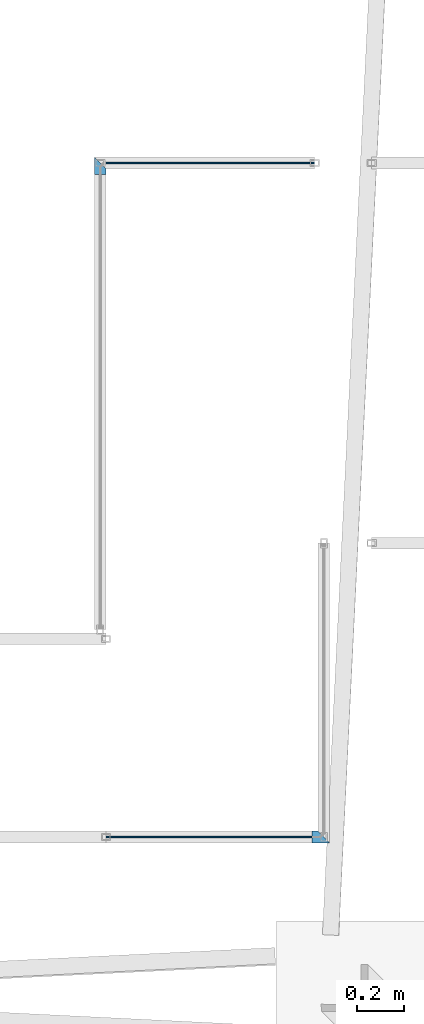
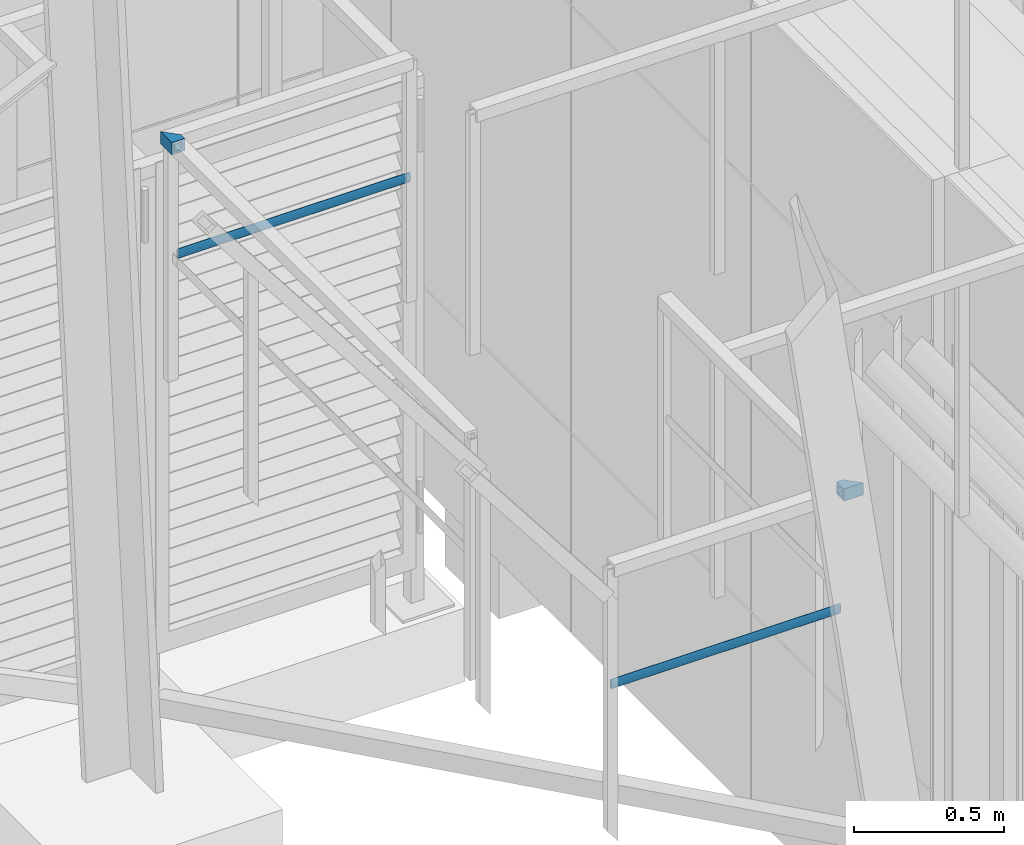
# One storey, part 81 of 418: 4 members, 2 elements without a shape of their own.
"""IFC2X3 building model written with IfcOpenShell, lengths in millimetres."""

import ifcopenshell
import ifcopenshell.guid

model = None  # the IFC model being written
_history = None  # IfcOwnerHistory: only IFC2X3 demands one
_inside = {}  # id of a spatial element -> (the spatial element, [elements in it])
_under = {}  # id of a project, library or spatial element -> (it, [spatial elements below it])
_declared = {}  # id of a project -> (the project, [libraries it declares])
_typed = {}  # id of a type object -> (the type object, [elements of that type])
_made_of = {}  # id of a material, layer set ... -> (it, [elements and type objects made of it])


def new_model(schema):
    """Start an empty IFC model of exactly this schema.

    Asked for "IFC4X3", IfcOpenShell would pick the latest addendum, in which some entities
    have other attributes; the version numbers below select the first issue.
    IFC2X3 requires an IfcOwnerHistory on every rooted entity: one is made here for all.
    """
    global model, _history
    if schema == "IFC4X3":
        model = ifcopenshell.file(schema_version=(4, 3, 0, 0))
    else:
        model = ifcopenshell.file(schema=schema)
    _inside.clear()
    _under.clear()
    _declared.clear()
    _typed.clear()
    _made_of.clear()
    _history = None
    if model.schema == "IFC2X3":
        org = make("IfcOrganization", Name="unknown")
        user = make(
            "IfcPersonAndOrganization",
            ThePerson=make("IfcPerson", FamilyName="unknown"),
            TheOrganization=org,
        )
        app = make(
            "IfcApplication",
            ApplicationDeveloper=org,
            Version="unknown",
            ApplicationFullName="unknown",
            ApplicationIdentifier="unknown",
        )
        _history = make(
            "IfcOwnerHistory",
            OwningUser=user,
            OwningApplication=app,
            ChangeAction="ADDED",
            CreationDate=0,
        )
    return model


def make(cls, **values):
    """One entity of the class cls with the attributes given. An attribute that is None is left unset."""
    return model.create_entity(
        cls, **{name: value for name, value in values.items() if value is not None}
    )


def entity(cls, *values):
    """Any entity or typed value of the class cls, its attributes in the order of the schema. None: left unset."""
    e = model.create_entity(cls)
    for i, value in enumerate(values):
        if value is not None:
            e[i] = value
    return e


def rooted(cls, **values):
    """An entity with a GlobalId (a new one), such as an element, a storey or a relation."""
    return make(cls, GlobalId=ifcopenshell.guid.new(), OwnerHistory=_history, **values)


def si_unit(unit_type, name, prefix=None):
    """IfcSIUnit, for example si_unit("LENGTHUNIT", "METRE", prefix="MILLI")."""
    return make("IfcSIUnit", UnitType=unit_type, Prefix=prefix, Name=name)


def converted_unit(unit_type, name, factor, base, dimensions=None, offset=None):
    """IfcConversionBasedUnit, such as the inch: factor (a typed value) times the base unit."""
    return make(
        "IfcConversionBasedUnit"
        if offset is None
        else "IfcConversionBasedUnitWithOffset",
        ConversionOffset=offset,
        Dimensions=None
        if dimensions is None
        else entity("IfcDimensionalExponents", *dimensions),
        UnitType=unit_type,
        Name=name,
        ConversionFactor=make(
            "IfcMeasureWithUnit", ValueComponent=factor, UnitComponent=base
        ),
    )


def derived_unit(unit_type, elements):
    """IfcDerivedUnit: a product of units, each with its exponent."""
    return make(
        "IfcDerivedUnit",
        Elements=[
            make("IfcDerivedUnitElement", Unit=unit, Exponent=power)
            for unit, power in elements
        ],
        UnitType=unit_type,
    )


def money_unit(currency):
    """IfcMonetaryUnit."""
    return make("IfcMonetaryUnit", Currency=currency)


def assignment(units):
    """IfcUnitAssignment: the units of a project."""
    return None if units is None else make("IfcUnitAssignment", Units=units)


def point(xyz):
    """IfcCartesianPoint."""
    return None if xyz is None else make("IfcCartesianPoint", Coordinates=xyz)


def direction(xyz):
    """IfcDirection."""
    return None if xyz is None else make("IfcDirection", DirectionRatios=xyz)


def frame(location, z_axis=None, x_axis=None):
    """IfcAxis2Placement3D, a coordinate frame: its origin and axes. An axis left out is left unset."""
    return make(
        "IfcAxis2Placement3D",
        Location=point(location),
        Axis=direction(z_axis),
        RefDirection=direction(x_axis),
    )


def origin_with_axes():
    """The frame at (0, 0, 0) with the z axis (0, 0, 1) and the x axis (1, 0, 0) written out."""
    return frame((0.0, 0.0, 0.0), z_axis=(0.0, 0.0, 1.0), x_axis=(1.0, 0.0, 0.0))


def place(relative_to, where):
    """IfcLocalPlacement: puts the frame where relative to a parent placement (None: the world)."""
    return make(
        "IfcLocalPlacement", PlacementRelTo=relative_to, RelativePlacement=where
    )


def context(
    kind, dimensions, precision=None, world=None, true_north=None, identifier=None
):
    """IfcGeometricRepresentationContext, for example the 3D "Model" context."""
    return make(
        "IfcGeometricRepresentationContext",
        ContextIdentifier=identifier,
        ContextType=kind,
        CoordinateSpaceDimension=dimensions,
        Precision=precision,
        WorldCoordinateSystem=world,
        TrueNorth=true_north,
    )


def subcontext(parent, identifier, kind, view, scale=None):
    """IfcGeometricRepresentationSubContext, for example "Body" below "Model"."""
    return make(
        "IfcGeometricRepresentationSubContext",
        ContextIdentifier=identifier,
        ContextType=kind,
        ParentContext=parent,
        TargetScale=scale,
        TargetView=view,
    )


def project(units=None, contexts=None):
    """IfcProject with its units and contexts."""
    return rooted(
        "IfcProject",
        Name="project",
        RepresentationContexts=contexts,
        UnitsInContext=assignment(units),
    )


def spatial(cls, under=None, at=None, **own):
    """A site, building, storey or space (cls), placed at a placement, below another one or the project."""
    s = rooted(cls, ObjectPlacement=at, **own)
    if under is not None:
        _under.setdefault(under.id(), (under, []))[1].append(s)
    return s


def faces_of(points, faces, orient=None, outer=None):
    """IfcFace entities. A face is a list of loops; a loop is a list of indices into points, from 0.

    orient and outer hold one flag for each loop. By default every Orientation is true, the
    first loop of a face is its IfcFaceOuterBound and the others are IfcFaceBound.
    """
    made = []
    for i, loops in enumerate(faces):
        bounds = []
        for j, loop in enumerate(loops):
            is_outer = j == 0 if outer is None else outer[i][j]
            bounds.append(
                make(
                    "IfcFaceOuterBound" if is_outer else "IfcFaceBound",
                    Bound=make("IfcPolyLoop", Polygon=[points[k] for k in loop]),
                    Orientation=True if orient is None else orient[i][j],
                )
            )
        made.append(make("IfcFace", Bounds=bounds))
    return made


def faceted_brep(points, faces, orient=None, outer=None, voids=None):
    """IfcFacetedBrep: a solid bounded by flat faces; with voids (closed shells), ...WithVoids."""
    shared = [point(p) for p in points]
    hull = make("IfcClosedShell", CfsFaces=faces_of(shared, faces, orient, outer))
    if voids is None:
        return make("IfcFacetedBrep", Outer=hull)
    return make(
        "IfcFacetedBrepWithVoids",
        Outer=hull,
        Voids=[
            make(cls, CfsFaces=faces_of(shared, fs, o, b)) for cls, fs, o, b in voids
        ],
    )


def shape(context_of_items, identifier, shape_type, items):
    """IfcShapeRepresentation: the items that make up one representation, for example the "Body"."""
    return make(
        "IfcShapeRepresentation",
        ContextOfItems=context_of_items,
        RepresentationIdentifier=identifier,
        RepresentationType=shape_type,
        Items=items,
    )


def material(Name=None, Category=None):
    """IfcMaterial."""
    return make("IfcMaterial", Name=Name, Category=Category)


def made_of(thing, what):
    """Note that an element or type object is made of a material, layer set ...; save() writes the relation."""
    if what is not None:
        _made_of.setdefault(what.id(), (what, []))[1].append(thing)
    return thing


def type_object(cls, material=None, **own):
    """A type object (cls), such as IfcWallType, which elements share."""
    return made_of(rooted(cls, **own), material)


def element(
    cls,
    number,
    at=None,
    inside=None,
    cuts=None,
    type_object=None,
    material=None,
    context=None,
    identifier="Body",
    shape_type=None,
    held_by="IfcProductDefinitionShape",
    body=None,
    shapes=None,
    **own,
):
    """One element of the class cls, such as IfcWall. Its Tag is "e" and its number.

    at: its placement. inside: the storey or other place that contains it. cuts: it is an
    opening in that element (IfcRelVoidsElement). A single representation is given by context,
    identifier, shape_type and body (its items); several are given by shapes. held_by: the class
    of the entity that holds the representations. save() writes the other relations.
    """
    e = rooted(cls, Tag="e%d" % number, ObjectPlacement=at, **own)
    if body is not None:
        shapes = [shape(context, identifier, shape_type, body)]
    if shapes is not None:
        e.Representation = make(held_by, Representations=shapes)
    if inside is not None:
        _inside.setdefault(inside.id(), (inside, []))[1].append(e)
    if cuts is not None:
        rooted(
            "IfcRelVoidsElement", RelatingBuildingElement=cuts, RelatedOpeningElement=e
        )
    if type_object is not None:
        _typed.setdefault(type_object.id(), (type_object, []))[1].append(e)
    return made_of(e, material)


def aggregate(whole, parts):
    """IfcRelAggregates: a whole, such as a stair, and the parts it consists of."""
    return rooted("IfcRelAggregates", RelatingObject=whole, RelatedObjects=parts)


def save(model, path):
    """Write the relations noted so far, then the file.

    IfcRelAggregates (storeys below a building ...), IfcRelContainedInSpatialStructure (elements
    in a storey), IfcRelDefinesByType, IfcRelAssociatesMaterial and IfcRelDeclares: one each for
    every whole, place, type object, material and project.
    """
    for whole, parts in _under.values():
        aggregate(whole, parts)
    for where, things in _inside.values():
        rooted(
            "IfcRelContainedInSpatialStructure",
            RelatedElements=things,
            RelatingStructure=where,
        )
    for kind, things in _typed.values():
        rooted("IfcRelDefinesByType", RelatedObjects=things, RelatingType=kind)
    for what, things in _made_of.values():
        rooted("IfcRelAssociatesMaterial", RelatedObjects=things, RelatingMaterial=what)
    for by, libraries in _declared.values():
        rooted("IfcRelDeclares", RelatingContext=by, RelatedDefinitions=libraries)
    model.write(path)


model = new_model("IFC2X3")

# Units and contexts
model_context = context("Model", 3, precision=0.01, world=origin_with_axes(), true_north=direction((0.0, 1.0)))
body_context = subcontext(model_context, "Body", "Model", "MODEL_VIEW")
ifc_project = project(units=[si_unit("LENGTHUNIT", "METRE", prefix="MILLI"), si_unit("AREAUNIT", "SQUARE_METRE"), si_unit("VOLUMEUNIT", "CUBIC_METRE"), converted_unit("PLANEANGLEUNIT", "DEGREE", entity("IfcPlaneAngleMeasure", 0.0174532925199), si_unit("PLANEANGLEUNIT", "RADIAN"), dimensions=[0, 0, 0, 0, 0, 0, 0]), si_unit("SOLIDANGLEUNIT", "STERADIAN"), money_unit("EUR"), converted_unit("TIMEUNIT", "Year", entity("IfcTimeMeasure", 31556926.0), si_unit("TIMEUNIT", "SECOND"), dimensions=[0, 0, 1, 0, 0, 0, 0]), si_unit("MASSUNIT", "GRAM", prefix="KILO"), si_unit("THERMODYNAMICTEMPERATUREUNIT", "DEGREE_CELSIUS"), si_unit("LUMINOUSINTENSITYUNIT", "LUMEN"), si_unit("ENERGYUNIT", "JOULE", prefix="MEGA"), derived_unit("THERMALCONDUCTANCEUNIT", [(si_unit("POWERUNIT", "WATT"), 1), (si_unit("LENGTHUNIT", "METRE"), -1), (si_unit("THERMODYNAMICTEMPERATUREUNIT", "KELVIN"), -1)]), derived_unit("SPECIFICHEATCAPACITYUNIT", [(si_unit("ENERGYUNIT", "JOULE"), 1), (si_unit("MASSUNIT", "GRAM", prefix="KILO"), -1), (si_unit("THERMODYNAMICTEMPERATUREUNIT", "KELVIN"), -1)]), derived_unit("MASSDENSITYUNIT", [(si_unit("MASSUNIT", "GRAM", prefix="KILO"), 1), (si_unit("VOLUMEUNIT", "CUBIC_METRE"), -1)])], contexts=[model_context])

# Site, building, storey
site_placement = place(None, origin_with_axes())
site = spatial("IfcSite", under=ifc_project, at=site_placement, Name="Paldiski mnt 245/1, Tallinn, Harjumaa", CompositionType="COMPLEX")
building_placement = place(site_placement, origin_with_axes())
building = spatial("IfcBuilding", under=site, at=building_placement, Name="RKAS Hoone üldnimetus (kasutust iseloomustav) -> IFC Project Manager -> SOLIBRI", CompositionType="ELEMENT")
storey_placement = place(building_placement, origin_with_axes())
storey = spatial("IfcBuildingStorey", under=building, at=storey_placement, Name="Esimene korrus", CompositionType="ELEMENT", Elevation=0.0)

# Railing, members
railing_type = type_object("IfcRailingType", Name="Railing Type", PredefinedType="NOTDEFINED")
railing_1_placement = place(storey_placement, frame((-50030.6058534, -4525.08408706, 3600.0), z_axis=(0.0, 0.0, 1.0), x_axis=(-0.773149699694, -0.634223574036, 0.0)))
railing_1 = element("IfcRailing", 1, at=railing_1_placement, inside=storey, type_object=railing_type, Name="PIIRE", PredefinedType="NOTDEFINED")
ifc_material = material(Name="ET-07_Teras - Roostevaba")
member_type = type_object("IfcMemberType", Name="IfcMember", PredefinedType="USERDEFINED")
member_1_placement = place(railing_1_placement, frame((0.0, 0.0, 0.0), z_axis=(0.0, 0.0, 1.0), x_axis=(-0.773149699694, 0.634223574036, 0.0)))
member_1 = element("IfcMember", 2, at=member_1_placement, type_object=member_type, material=ifc_material, Name="Piirde ülemise osa ühendus - 001", ObjectType="Rail", context=body_context, shape_type="Brep", body=[
    faceted_brep([(-1149.26968269, -50.0, 890.0), (-1179.26968269, -50.0, 890.0), (-1179.26968269, 15.0, 890.0), (-1149.26968269, -15.0, 890.0), (-1139.26968269, -50.0, 900.0), (-1189.26968269, -50.0, 900.0), (-1189.26968269, -50.0, 850.0), (-1139.26968269, -50.0, 850.0), (-1179.26968269, -50.0, 860.0), (-1149.26968269, -50.0, 860.0), (-1179.26968269, 15.0, 860.0), (-1139.26968269, -25.0, 900.0), (-1139.26968269, -25.0, 850.0), (-1189.26968269, 25.0, 850.0), (-1189.26968269, 25.0, 900.0), (-1149.26968269, -15.0, 860.0)], [[[0, 1, 2, 3]], [[4, 5, 6, 7], [8, 1, 0, 9]], [[1, 8, 10, 2]], [[11, 12, 13, 14], [10, 15, 3, 2]], [[9, 0, 3, 15]], [[5, 4, 11, 14]], [[6, 5, 14, 13]], [[7, 6, 13, 12]], [[4, 7, 12, 11]], [[8, 9, 15, 10]]]),
])
member_2_placement = place(railing_1_placement, frame((534.902098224, -438.786331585, 379.384471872), z_axis=(0.0, 0.0, 1.0), x_axis=(-0.773149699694, 0.634223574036, 0.0)))
member_2 = element("IfcMember", 3, at=member_2_placement, type_object=member_type, material=ifc_material, Name="Piirde alaosa - 001", ObjectType="Rail", context=body_context, shape_type="Brep", body=[
    faceted_brep([(447.421650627, -5.00000000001, 20.6155281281), (447.421650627, -4.92403876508, 24.0884916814), (-447.098912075, -4.92403876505, 24.0884916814), (-447.093933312, -4.99999999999, 20.6155281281), (447.421650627, -4.92403876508, 17.1425645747), (447.421650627, -4.69846310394, 13.7751252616), (447.421650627, -4.33012701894, 10.6155281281), (447.421650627, -3.83022221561, 7.75977593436), (447.421650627, -3.21393804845, 5.29463926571), (447.421650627, -2.50000000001, 3.2950200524), (447.421650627, -1.71010071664, 1.82167571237), (447.421650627, -0.868240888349, 0.919373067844), (447.421650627, 0.0, 0.615528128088), (447.421650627, 0.86824088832, 0.919373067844), (447.421650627, 1.71010071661, 1.82167571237), (447.421650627, 2.49999999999, 3.2950200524), (447.421650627, 3.21393804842, 5.29463926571), (447.421650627, 3.83022221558, 7.75977593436), (447.421650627, 4.33012701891, 10.6155281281), (447.421650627, 4.69846310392, 13.7751252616), (447.421650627, 4.92403876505, 17.1425645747), (447.421650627, 4.99999999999, 20.6155281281), (447.421650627, 4.92403876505, 24.0884916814), (447.421650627, 4.69846310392, 27.4559309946), (447.421650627, 4.33012701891, 30.6155281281), (447.421650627, 3.83022221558, 33.4712803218), (447.421650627, 3.21393804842, 35.9364169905), (447.421650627, 2.49999999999, 37.9360362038), (447.421650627, 1.71010071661, 39.4093805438), (447.421650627, 0.86824088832, 40.3116831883), (447.421650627, 0.0, 40.6155281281), (447.421650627, -0.868240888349, 40.3116831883), (447.421650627, -1.71010071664, 39.4093805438), (447.421650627, -2.50000000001, 37.9360362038), (447.421650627, -3.21393804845, 35.9364169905), (447.421650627, -3.83022221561, 33.4712803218), (447.421650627, -4.33012701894, 30.6155281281), (447.421650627, -4.69846310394, 27.4559309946), (-447.113697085, -4.69846310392, 27.4559309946), (-447.137839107, -4.33012701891, 30.6155281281), (-447.170604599, -3.83022221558, 33.4712803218), (-447.210997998, -3.21393804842, 35.9364169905), (-447.25779197, -2.49999999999, 37.9360362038), (-447.309564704, -1.71010071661, 39.4093805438), (-447.364743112, -0.868240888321, 40.3116831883), (-447.421650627, 0.0, 40.6155281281), (-447.478558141, 0.868240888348, 40.3116831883), (-447.533736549, 1.71010071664, 39.4093805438), (-447.585509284, 2.50000000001, 37.9360362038), (-447.632303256, 3.21393804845, 35.9364169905), (-447.672696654, 3.83022221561, 33.4712803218), (-447.705462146, 4.33012701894, 30.6155281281), (-447.729604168, 4.69846310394, 27.4559309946), (-447.744389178, 4.92403876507, 24.0884916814), (-447.749367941, 5.00000000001, 20.6155281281), (-447.744389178, 4.92403876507, 17.1425645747), (-447.729604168, 4.69846310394, 13.7751252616), (-447.705462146, 4.33012701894, 10.6155281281), (-447.672696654, 3.83022221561, 7.75977593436), (-447.632303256, 3.21393804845, 5.29463926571), (-447.585509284, 2.50000000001, 3.2950200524), (-447.533736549, 1.71010071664, 1.82167571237), (-447.478558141, 0.868240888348, 0.919373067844), (-447.421650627, 0.0, 0.615528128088), (-447.364743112, -0.868240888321, 0.919373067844), (-447.309564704, -1.71010071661, 1.82167571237), (-447.25779197, -2.49999999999, 3.2950200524), (-447.210997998, -3.21393804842, 5.29463926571), (-447.170604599, -3.83022221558, 7.75977593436), (-447.137839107, -4.33012701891, 10.6155281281), (-447.113697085, -4.69846310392, 13.7751252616), (-447.098912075, -4.92403876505, 17.1425645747)], [[[0, 1, 2, 3]], [[0, 4, 5, 6, 7, 8, 9, 10, 11, 12, 13, 14, 15, 16, 17, 18, 19, 20, 21, 22, 23, 24, 25, 26, 27, 28, 29, 30, 31, 32, 33, 34, 35, 36, 37, 1]], [[1, 37, 38, 2]], [[3, 2, 38, 39, 40, 41, 42, 43, 44, 45, 46, 47, 48, 49, 50, 51, 52, 53, 54, 55, 56, 57, 58, 59, 60, 61, 62, 63, 64, 65, 66, 67, 68, 69, 70, 71]], [[4, 0, 3, 71]], [[5, 4, 71, 70]], [[6, 5, 70, 69]], [[7, 6, 69, 68]], [[8, 7, 68, 67]], [[9, 8, 67, 66]], [[10, 9, 66, 65]], [[11, 10, 65, 64]], [[12, 11, 64, 63]], [[13, 12, 63, 62]], [[14, 13, 62, 61]], [[15, 14, 61, 60]], [[16, 15, 60, 59]], [[17, 16, 59, 58]], [[18, 17, 58, 57]], [[19, 18, 57, 56]], [[20, 19, 56, 55]], [[21, 20, 55, 54]], [[22, 21, 54, 53]], [[23, 22, 53, 52]], [[24, 23, 52, 51]], [[25, 24, 51, 50]], [[26, 25, 50, 49]], [[27, 26, 49, 48]], [[28, 27, 48, 47]], [[29, 28, 47, 46]], [[30, 29, 46, 45]], [[31, 30, 45, 44]], [[32, 31, 44, 43]], [[33, 32, 43, 42]], [[34, 33, 42, 41]], [[35, 34, 41, 40]], [[36, 35, 40, 39]], [[37, 36, 39, 38]]]),
])
aggregate(railing_1, [member_1, member_2])

railing_2_placement = place(storey_placement, frame((-50030.6058534, -6155.24631697, 3600.0), z_axis=(0.0, 0.0, 1.0), x_axis=(-0.773149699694, -0.634223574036, 0.0)))
railing_2 = element("IfcRailing", 4, at=railing_2_placement, inside=storey, type_object=railing_type, Name="PIIRE", PredefinedType="NOTDEFINED")
member_3_placement = place(railing_2_placement, frame((0.0, 0.0, 0.0), z_axis=(0.0, 0.0, 1.0), x_axis=(-0.773149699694, 0.634223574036, 0.0)))
member_3 = element("IfcMember", 5, at=member_3_placement, type_object=member_type, material=ifc_material, Name="Piirde ülemise osa ühendus - 001", ObjectType="Rail", context=body_context, shape_type="Brep", body=[
    faceted_brep([(-255.0, -1275.0, 860.0), (-255.0, -1275.0, 890.0), (-190.0, -1275.0, 890.0), (-190.0, -1275.0, 860.0), (-255.0, -1285.0, 850.0), (-255.0, -1285.0, 900.0), (-255.0, -1235.0, 900.0), (-255.0, -1235.0, 850.0), (-255.0, -1245.0, 890.0), (-255.0, -1245.0, 860.0), (-220.0, -1245.0, 890.0), (-180.0, -1285.0, 900.0), (-180.0, -1285.0, 850.0), (-230.0, -1235.0, 850.0), (-230.0, -1235.0, 900.0), (-220.0, -1245.0, 860.0)], [[[0, 1, 2, 3]], [[4, 5, 6, 7], [8, 1, 0, 9]], [[1, 8, 10, 2]], [[11, 12, 13, 14], [15, 3, 2, 10]], [[9, 0, 3, 15]], [[5, 4, 12, 11]], [[6, 5, 11, 14]], [[7, 6, 14, 13]], [[4, 7, 13, 12]], [[8, 9, 15, 10]]]),
])
member_4_placement = place(railing_2_placement, frame((1338.11129652, 532.029270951, 379.384471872), z_axis=(0.0, 0.0, 1.0), x_axis=(-0.773149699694, 0.634223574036, 0.0)))
member_4 = element("IfcMember", 6, at=member_4_placement, type_object=member_type, material=ifc_material, Name="Piirde alaosa - 001", ObjectType="Rail", context=body_context, shape_type="Brep", body=[
    faceted_brep([(442.134841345, 4.92403876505, 24.0884916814), (442.134841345, 4.99999999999, 20.6155281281), (-442.134841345, 5.00000000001, 20.6155281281), (-442.134841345, 4.92403876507, 24.0884916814), (442.134841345, 4.92403876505, 17.1425645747), (442.134841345, 4.69846310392, 27.4559309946), (442.134841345, 4.33012701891, 30.6155281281), (442.134841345, 3.83022221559, 33.4712803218), (442.134841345, 3.21393804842, 35.9364169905), (442.134841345, 2.49999999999, 37.9360362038), (442.134841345, 1.71010071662, 39.4093805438), (442.134841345, 0.868240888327, 40.3116831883), (442.134841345, 0.0, 40.6155281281), (442.134841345, -0.868240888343, 40.3116831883), (442.134841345, -1.71010071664, 39.4093805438), (442.134841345, -2.50000000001, 37.9360362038), (442.134841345, -3.21393804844, 35.9364169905), (442.134841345, -3.8302222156, 33.4712803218), (442.134841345, -4.33012701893, 30.6155281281), (442.134841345, -4.69846310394, 27.4559309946), (442.134841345, -4.92403876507, 24.0884916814), (442.134841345, -5.00000000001, 20.6155281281), (442.134841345, -4.92403876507, 17.1425645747), (442.134841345, -4.69846310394, 13.7751252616), (442.134841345, -4.33012701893, 10.6155281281), (442.134841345, -3.8302222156, 7.75977593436), (442.134841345, -3.21393804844, 5.29463926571), (442.134841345, -2.50000000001, 3.2950200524), (442.134841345, -1.71010071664, 1.82167571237), (442.134841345, -0.868240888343, 0.919373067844), (442.134841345, 0.0, 0.615528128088), (442.134841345, 0.868240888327, 0.919373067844), (442.134841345, 1.71010071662, 1.82167571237), (442.134841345, 2.49999999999, 3.2950200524), (442.134841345, 3.21393804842, 5.29463926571), (442.134841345, 3.83022221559, 7.75977593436), (442.134841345, 4.33012701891, 10.6155281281), (442.134841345, 4.69846310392, 13.7751252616), (-442.134841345, 4.92403876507, 17.1425645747), (-442.134841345, -4.33012701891, 10.6155281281), (-442.134841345, -4.69846310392, 13.7751252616), (-442.134841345, -4.92403876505, 17.1425645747), (-442.134841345, -4.99999999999, 20.6155281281), (-442.134841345, -4.92403876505, 24.0884916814), (-442.134841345, -4.69846310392, 27.4559309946), (-442.134841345, -4.33012701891, 30.6155281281), (-442.134841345, -3.83022221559, 33.4712803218), (-442.134841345, -3.21393804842, 35.9364169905), (-442.134841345, -2.49999999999, 37.9360362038), (-442.134841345, -1.71010071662, 39.4093805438), (-442.134841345, -0.868240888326, 40.3116831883), (-442.134841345, 0.0, 40.6155281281), (-442.134841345, 0.868240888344, 40.3116831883), (-442.134841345, 1.71010071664, 39.4093805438), (-442.134841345, 2.50000000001, 37.9360362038), (-442.134841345, 3.21393804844, 35.9364169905), (-442.134841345, 3.8302222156, 33.4712803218), (-442.134841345, 4.33012701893, 30.6155281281), (-442.134841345, 4.69846310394, 27.4559309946), (-442.134841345, 4.69846310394, 13.7751252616), (-442.134841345, 4.33012701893, 10.6155281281), (-442.134841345, 3.8302222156, 7.75977593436), (-442.134841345, 3.21393804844, 5.29463926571), (-442.134841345, 2.50000000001, 3.2950200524), (-442.134841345, 1.71010071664, 1.82167571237), (-442.134841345, 0.868240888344, 0.919373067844), (-442.134841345, 0.0, 0.615528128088), (-442.134841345, -0.868240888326, 0.919373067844), (-442.134841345, -1.71010071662, 1.82167571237), (-442.134841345, -2.49999999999, 3.2950200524), (-442.134841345, -3.21393804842, 5.29463926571), (-442.134841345, -3.83022221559, 7.75977593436)], [[[0, 1, 2, 3]], [[4, 1, 0, 5, 6, 7, 8, 9, 10, 11, 12, 13, 14, 15, 16, 17, 18, 19, 20, 21, 22, 23, 24, 25, 26, 27, 28, 29, 30, 31, 32, 33, 34, 35, 36, 37]], [[1, 4, 38, 2]], [[39, 40, 41, 42, 43, 44, 45, 46, 47, 48, 49, 50, 51, 52, 53, 54, 55, 56, 57, 58, 3, 2, 38, 59, 60, 61, 62, 63, 64, 65, 66, 67, 68, 69, 70, 71]], [[5, 0, 3, 58]], [[6, 5, 58, 57]], [[7, 6, 57, 56]], [[8, 7, 56, 55]], [[9, 8, 55, 54]], [[10, 9, 54, 53]], [[11, 10, 53, 52]], [[12, 11, 52, 51]], [[13, 12, 51, 50]], [[14, 13, 50, 49]], [[15, 14, 49, 48]], [[16, 15, 48, 47]], [[17, 16, 47, 46]], [[18, 17, 46, 45]], [[19, 18, 45, 44]], [[20, 19, 44, 43]], [[21, 20, 43, 42]], [[22, 21, 42, 41]], [[23, 22, 41, 40]], [[24, 23, 40, 39]], [[25, 24, 39, 71]], [[26, 25, 71, 70]], [[27, 26, 70, 69]], [[28, 27, 69, 68]], [[29, 28, 68, 67]], [[30, 29, 67, 66]], [[31, 30, 66, 65]], [[32, 31, 65, 64]], [[33, 32, 64, 63]], [[34, 33, 63, 62]], [[35, 34, 62, 61]], [[36, 35, 61, 60]], [[37, 36, 60, 59]], [[4, 37, 59, 38]]]),
])
aggregate(railing_2, [member_3, member_4])

save(model, "model.ifc")
